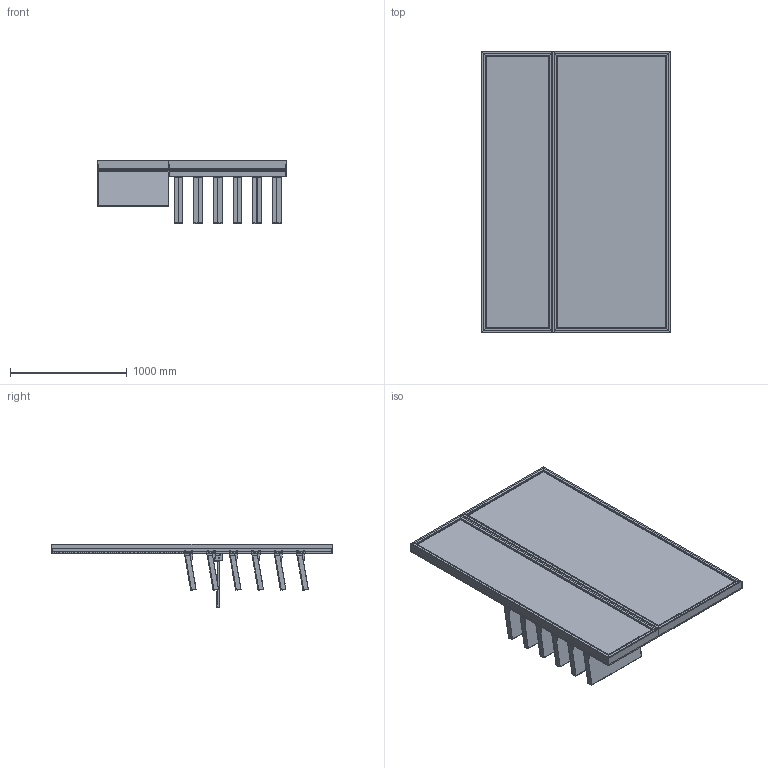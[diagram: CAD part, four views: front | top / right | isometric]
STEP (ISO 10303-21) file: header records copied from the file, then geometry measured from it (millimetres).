
FILE_DESCRIPTION (( 'STEP AP203' ), '1' );
FILE_NAME ('Slotted UpBright® Pro Shop Fitting Bay Fixture (Standard).STEP', '2026-04-02T13:08:53', ( '' ), ( '' ), 'SwSTEP 2.0', 'SolidWorks 2025', '' );
FILE_SCHEMA (( 'CONFIG_CONTROL_DESIGN' ));
Length unit declared in the file: millimetre
Products named in the file (19): Slotted UpBright® Pro Shop Fitting Bay Fixture (Standard); 0001-29-SA01__X2_88c5914d4f53_X0_4_默认; 0001-29-GA01 - Driver head tray 610W__X2_88c5914d4f53_X0_5_默认; 0001-29-GA02 - Iron head tray 610W__X2_88c5914d4f53_X0_10_默认; 0001-29-002__X2_96f64ef6_X0_24_默认; 0001-31-GA10 - 1005W Slotted upbright; 0001-31-SA36 - 1005W Slatwall Extender__X2_88c5914d4f53_X0_7_默认; BS EN ISO 10642 - M6 x 16 - 16N_BS EN ISO 10642 - M6 x 16 - 16N__X2_96f64ef6_X0_43_默认; 0001-31-GA01 - 610W Slotted Upright; 0001-29-004__X2_96f64ef6_X0_32_默认; 0001-29-001__X2_96f64ef6_X0_25_默认; 0001-31-SA34 - Shaft Arm__X2_88c5914d4f53_X0_2_默认; 0001-31-128__X2_96f64ef6_X0_6_默认; 0001-31-134__X2_96f64ef6_X0_46_默认; 0001-31-133__X2_96f64ef6_X0_8_默认; 0001-31-129__X2_96f64ef6_X0_7_默认; 0001-31-136__X2_96f64ef6_X0_45_默认; 0001-29-003__X2_96f64ef6_X0_26_默认; 0001-31-137__X2_96f64ef6_X0_44_默认
Assembly tree (32 placements, depth 4):
  Slotted UpBright® Pro Shop Fitting Bay Fixture (Standard)
    0001-31-SA36 - 1005W Slatwall Extender__X2_88c5914d4f53_X0_7_默认
      BS EN ISO 10642 - M6 x 16 - 16N_BS EN ISO 10642 - M6 x 16 - 16N__X2_96f64ef6_X0_43_默认  x4
      0001-31-137__X2_96f64ef6_X0_44_默认
      0001-31-136__X2_96f64ef6_X0_45_默认
      0001-31-134__X2_96f64ef6_X0_46_默认
    0001-31-SA34 - Shaft Arm__X2_88c5914d4f53_X0_2_默认  x6
      0001-31-128__X2_96f64ef6_X0_6_默认
      0001-31-129__X2_96f64ef6_X0_7_默认
      0001-31-133__X2_96f64ef6_X0_8_默认
    0001-29-GA01 - Driver head tray 610W__X2_88c5914d4f53_X0_5_默认  x3
      0001-29-SA01__X2_88c5914d4f53_X0_4_默认
        0001-29-002__X2_96f64ef6_X0_24_默认  x2
        0001-29-001__X2_96f64ef6_X0_25_默认
      0001-29-003__X2_96f64ef6_X0_26_默认
    0001-29-GA02 - Iron head tray 610W__X2_88c5914d4f53_X0_10_默认  x3
      0001-29-SA01__X2_88c5914d4f53_X0_4_默认
        0001-29-002__X2_96f64ef6_X0_24_默认  x2
        0001-29-001__X2_96f64ef6_X0_25_默认
      0001-29-004__X2_96f64ef6_X0_32_默认
    0001-31-GA01 - 610W Slotted Upright
    0001-31-GA10 - 1005W Slotted upbright
Bounding box: 1615.49 x 2400 x 542.17 mm (x, y, z)
Volume: 56626244 mm3; surface area: 28203586.8 mm2
Topology: 61 solids, 115 shells, 2750 faces, 8154 edges, 5408 vertices
Faces by surface type: plane 1954, cylinder 756, cone 32, torus 8
Entity records: 55803 total; most frequent: CARTESIAN_POINT 10181, ORIENTED_EDGE 9704, DIRECTION 8082, EDGE_CURVE 4852, VECTOR 4290, LINE 4290, VERTEX_POINT 3227, AXIS2_PLACEMENT_3D 1896
